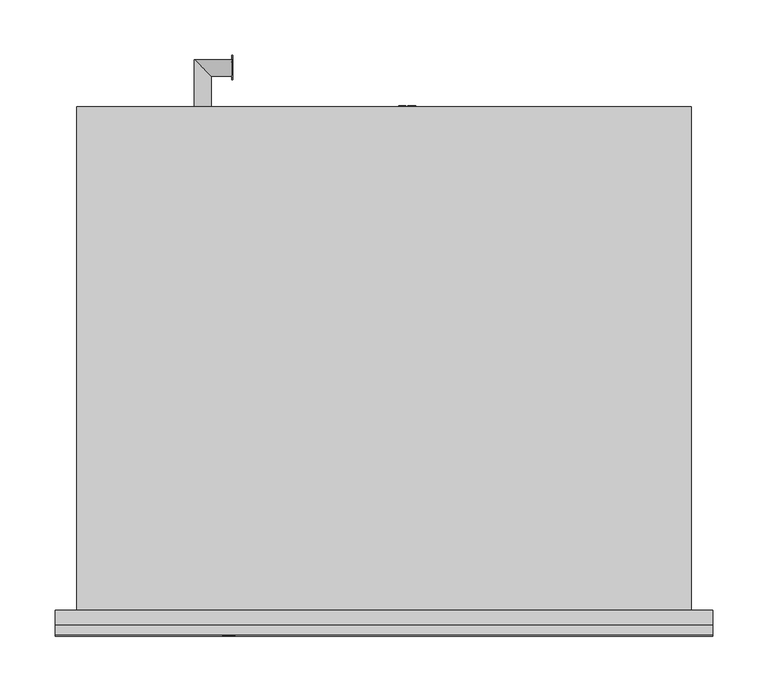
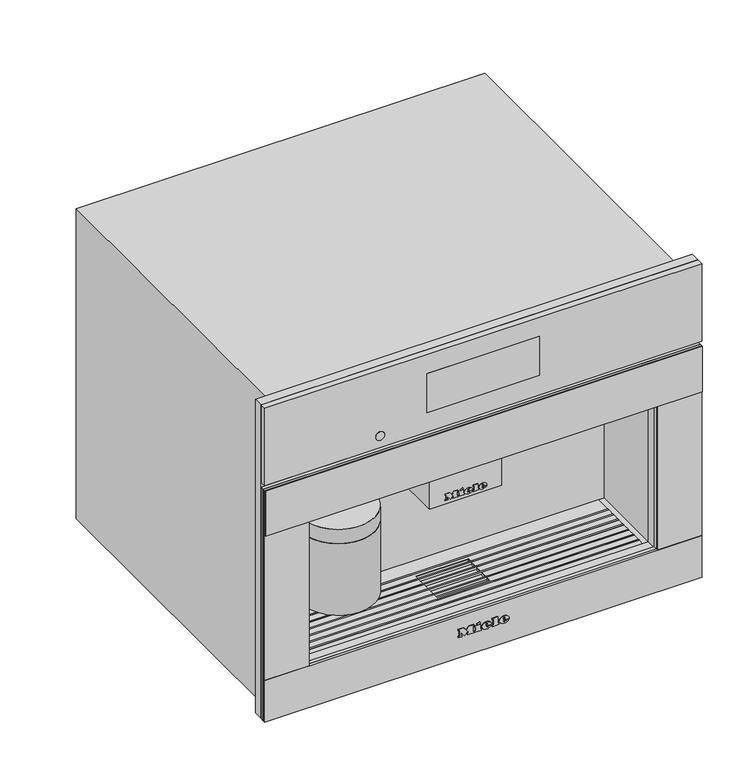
"""IFC4 building model written with IfcOpenShell, lengths in millimetres: proxy geometry, 11754310_MEX_CVA7845_EDST-CLST : 29784540_MEX_11754310_CVA7845_EDST-CLST."""

from ifc_helpers import new_model, si_unit, point, frame, frame_2d, origin, place, context, project, spatial, polyline, circle_curve, ellipse_curve, trimmed, segment, composite_curve, outline, extrude, faceted_brep, source, transform, mapped, element, save
from ifc_brep_helpers import plane_surface, cylinder_surface, revolved_surface, extruded_surface, advanced_brep


def specialty_equipment_d282b1ad(model_context):
    return source(origin(), model_context, "Body", "SolidModel", [
        extrude(outline(composite_curve([segment(trimmed(circle_curve(frame_2d((-14.0, 36.5)), 5.0), [point((-9.0, 36.5))], [point((-19.0, 36.5))], False, "CARTESIAN"), True, "CONTINUOUS"), segment(trimmed(circle_curve(frame_2d((-14.0, 36.5)), 5.0), [point((-19.0, 36.5))], [point((-9.0, 36.5))], False, "CARTESIAN"), True, "CONTINUOUS")], self_intersect=False)), frame((0.0, 0.0, 193.0), z_axis=(0.0, 0.0, 1.0), x_axis=(1.0, 0.0, 0.0)), (0.0, 0.0, 1.0), 5.0),
        extrude(outline(composite_curve([segment(trimmed(circle_curve(frame_2d((14.0, 36.5)), 5.0), [point((19.0, 36.5))], [point((9.0, 36.5))], False, "CARTESIAN"), True, "CONTINUOUS"), segment(trimmed(circle_curve(frame_2d((14.0, 36.5)), 5.0), [point((9.0, 36.5))], [point((19.0, 36.5))], False, "CARTESIAN"), True, "CONTINUOUS")], self_intersect=False)), frame((0.0, 0.0, 193.0), z_axis=(0.0, 0.0, 1.0), x_axis=(1.0, 0.0, 0.0)), (0.0, 0.0, 1.0), 5.0),
        extrude(outline(composite_curve([segment(trimmed(circle_curve(frame_2d((-156.5, 49.5)), 50.0), [point((-106.5, 49.5))], [point((-206.5, 49.5))], False, "CARTESIAN"), True, "CONTINUOUS"), segment(trimmed(circle_curve(frame_2d((-156.5, 49.5)), 50.0), [point((-206.5, 49.5))], [point((-106.5, 49.5))], False, "CARTESIAN"), True, "CONTINUOUS")], self_intersect=False)), frame((0.0, 0.0, 100.0), z_axis=(0.0, 0.0, 1.0), x_axis=(1.0, 0.0, 0.0)), (0.0, 0.0, 1.0), 103.0),
        extrude(outline(polyline([(-49.0, 95.0), (49.0, 95.0), (49.0, 20.0), (-49.0, 20.0), (-49.0, 95.0)])), frame((0.0, 0.0, 198.0), z_axis=(0.0, 0.0, 1.0), x_axis=(1.0, 0.0, 0.0)), (0.0, 0.0, 1.0), 75.0),
        extrude(outline(polyline([(455.5, 297.5), (455.5, -297.5), (4.0, -297.5), (4.0, 297.5), (455.5, 297.5)]), holes=[polyline([(273.0, 237.5), (63.0, 237.5), (63.0, -237.5), (273.0, -237.5), (273.0, 237.5)])]), frame((0.0, -13.0, 0.0), z_axis=(0.0, 1.0, 0.0), x_axis=(0.0, 0.0, 1.0)), (0.0, 0.0, 1.0), 13.0),
        extrude(outline(polyline([(480.48348, 22.0), (480.48348, 32.045631), (481.7391839, 32.045631), (481.7391839, 27.128275), (486.8895318, 32.045631), (488.6455552, 32.045631), (484.3217155, 27.9155425), (488.8025182, 22.0), (487.267224, 22.0), (483.4314411, 27.0669613), (481.7391839, 25.4531857), (481.7391839, 22.0), (480.48348, 22.0)])), frame((-138.0, 0.0, 0.0), z_axis=(1.0, 0.0, 0.0), x_axis=(0.0, 1.0, 0.0)), (0.0, 0.0, 1.0), 1.0),
        extrude(outline(polyline([(491.5420128, 22.0), (488.8025182, 32.045631), (490.0974628, 32.045631), (491.6867131, 25.4433755), (492.1772224, 23.4053092), (492.7020674, 25.207931), (494.6935352, 32.045631), (496.5599232, 32.045631), (498.0069257, 27.0890343), (499.0835937, 23.4053092), (499.5593878, 25.3845144), (501.1633533, 32.045631), (502.4582979, 32.045631), (499.7163507, 22.0), (498.3748077, 22.0), (495.9664069, 29.7500474), (495.630408, 30.8316204), (495.2527159, 29.5293182), (493.0576866, 22.0), (491.5420128, 22.0)])), frame((-138.0, 0.0, 0.0), z_axis=(1.0, 0.0, 0.0), x_axis=(0.0, 1.0, 0.0)), (0.0, 0.0, 1.0), 1.0),
        advanced_brep(
        [(-156.5, 456.0, 27.0), (-171.5, 456.0, 27.0), (-156.5, 483.5, 27.0), (-171.5, 498.5, 27.0), (-138.0, 483.5, 27.0), (-138.0, 498.5, 27.0)],
        [
            (0, 1, circle_curve(frame((-164.0, 456.0, 27.0), z_axis=(0.0, -1.0, 0.0), x_axis=(-1.0, 0.0, 0.0)), 7.5)),
            (1, 0, circle_curve(frame((-164.0, 456.0, 27.0), z_axis=(0.0, -1.0, 0.0), x_axis=(-1.0, 0.0, 0.0)), 7.5)),
            (0, 2),
            (2, 3, ellipse_curve(frame((-164.0, 491.0, 27.0), z_axis=(-0.707106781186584, -0.7071067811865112, 0.0), x_axis=(0.7071067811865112, -0.7071067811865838, 0.0)), 10.6066017, 7.5)),
            (3, 1),
            (3, 2, ellipse_curve(frame((-164.0, 491.0, 27.0), z_axis=(-0.707106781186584, -0.7071067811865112, 0.0), x_axis=(0.7071067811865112, -0.7071067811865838, 0.0)), 10.6066017, 7.5)),
            (4, 5, circle_curve(frame((-138.0, 491.0, 27.0), z_axis=(1.0, 0.0, 0.0), x_axis=(0.0, 1.0, 0.0)), 7.5)),
            (5, 4, circle_curve(frame((-138.0, 491.0, 27.0), z_axis=(1.0, 0.0, 0.0), x_axis=(0.0, 1.0, 0.0)), 7.5)),
            (2, 4),
            (5, 3),
        ],
        [
            plane_surface(frame((-164.0, 456.0, 27.0), z_axis=(0.0, -1.0, 0.0), x_axis=(0.0, 0.0, 1.0))),
            cylinder_surface(frame((-164.0, 456.0, 27.0), z_axis=(0.0, -1.0, 0.0), x_axis=(-1.0, 0.0, 0.0)), 7.5),
            plane_surface(frame((-138.0, 491.0, 27.0), z_axis=(1.0, 0.0, 0.0), x_axis=(0.0, 0.0, 1.0))),
            cylinder_surface(frame((-164.0, 491.0, 27.0), z_axis=(-1.0, 0.0, 0.0), x_axis=(0.0, 1.0, 0.0)), 7.5),
        ],
        [
            (0, [[1, 2]]),
            (1, [[-1, 3, 4, 5]]),
            (1, [[-2, -5, 6, -3]]),
            (2, [[7, 8]]),
            (3, [[-4, 9, -8, 10]]),
            (3, [[-6, -10, -7, -9]]),
        ],
    ),
        extrude(outline(polyline([(97.0, 28.8772152), (107.045631, 28.8772152), (107.045631, 21.6569179), (105.7899271, 21.6569179), (105.7899271, 27.6215114), (102.8076304, 27.6215114), (102.8076304, 21.9708439), (101.5519266, 21.9708439), (101.5519266, 27.6215114), (98.2557039, 27.6215114), (98.2557039, 21.499955), (97.0, 21.499955), (97.0, 28.8772152)])), frame((0.0, 456.0, 0.0), z_axis=(0.0, 1.0, 0.0), x_axis=(0.0, 0.0, 1.0)), (0.0, 0.0, 1.0), 1.0),
        extrude(outline(polyline([(97.0, 19.6163991), (107.045631, 19.6163991), (107.045631, 18.3606953), (98.2557039, 18.3606953), (98.2557039, 13.3378798), (97.0, 13.3378798), (97.0, 19.6163991)])), frame((0.0, 456.0, 0.0), z_axis=(0.0, 1.0, 0.0), x_axis=(0.0, 0.0, 1.0)), (0.0, 0.0, 1.0), 1.0),
        advanced_brep(
        [(55.0, 425.5, 102.0), (55.0, 410.5, 102.0), (28.5, 425.5, 102.0), (13.5, 410.5, 102.0), (28.5, 456.0, 102.0), (13.5, 456.0, 102.0)],
        [
            (0, 1, circle_curve(frame((55.0, 418.0, 102.0), z_axis=(1.0, 0.0, 0.0), x_axis=(0.0, -1.0, 0.0)), 7.5)),
            (1, 0, circle_curve(frame((55.0, 418.0, 102.0), z_axis=(1.0, 0.0, 0.0), x_axis=(0.0, -1.0, 0.0)), 7.5)),
            (0, 2),
            (2, 3, ellipse_curve(frame((21.0, 418.0, 102.0), z_axis=(0.7071067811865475, -0.7071067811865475, 0.0), x_axis=(0.7071067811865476, 0.7071067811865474, 0.0)), 10.6066017, 7.5)),
            (3, 1),
            (3, 2, ellipse_curve(frame((21.0, 418.0, 102.0), z_axis=(0.7071067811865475, -0.7071067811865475, 0.0), x_axis=(0.7071067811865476, 0.7071067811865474, 0.0)), 10.6066017, 7.5)),
            (4, 5, circle_curve(frame((21.0, 456.0, 102.0), z_axis=(0.0, 1.0, 0.0), x_axis=(-1.0, 0.0, 0.0)), 7.5)),
            (5, 4, circle_curve(frame((21.0, 456.0, 102.0), z_axis=(0.0, 1.0, 0.0), x_axis=(-1.0, 0.0, 0.0)), 7.5)),
            (2, 4),
            (5, 3),
        ],
        [
            plane_surface(frame((55.0, 418.0, 102.0), z_axis=(1.0, 0.0, 0.0), x_axis=(0.0, 0.0, 1.0))),
            cylinder_surface(frame((55.0, 418.0, 102.0), z_axis=(1.0, 0.0, 0.0), x_axis=(0.0, -1.0, 0.0)), 7.5),
            plane_surface(frame((21.0, 456.0, 102.0), z_axis=(0.0, 1.0, 0.0), x_axis=(0.0, 0.0, 1.0))),
            cylinder_surface(frame((21.0, 418.0, 102.0), z_axis=(0.0, -1.0, 0.0), x_axis=(-1.0, 0.0, 0.0)), 7.5),
        ],
        [
            (0, [[1, 2]]),
            (1, [[-1, 3, 4, 5]]),
            (1, [[-2, -5, 6, -3]]),
            (2, [[7, 8]]),
            (3, [[-4, 9, -8, 10]]),
            (3, [[-6, -10, -7, -9]]),
        ],
    ),
        advanced_brep(
        [(-110.0, 49.5, 252.0), (-203.0, 49.5, 252.0), (-206.5, 49.5, 223.5), (-106.5, 49.5, 223.5), (-110.0, 49.5, 273.0), (-203.0, 49.5, 273.0), (-156.5, 49.5, 273.0), (-106.5, 49.5, 203.0), (-206.5, 49.5, 203.0), (-156.5, 49.5, 203.0)],
        [
            (0, 1, circle_curve(frame((-156.5, 49.5, 252.0), z_axis=(0.0, 0.0, -1.0), x_axis=(-1.0, 0.0, 0.0)), 46.5)),
            (1, 2, circle_curve(frame((-206.7961166, 49.5, 238.0012775), z_axis=(0.0, 1.0, 0.0), x_axis=(-1.0, 0.0, 0.0)), 14.5043005)),
            (2, 3, circle_curve(frame((-156.5, 49.5, 223.5), z_axis=(0.0, 0.0, 1.0), x_axis=(-1.0, 0.0, 0.0)), 50.0)),
            (3, 0, circle_curve(frame((-106.2038834, 49.5, 238.0012775), z_axis=(0.0, 1.0, 0.0), x_axis=(1.0, 0.0, 0.0)), 14.5043005)),
            (4, 5, circle_curve(frame((-156.5, 49.5, 273.0), z_axis=(0.0, 0.0, -1.0), x_axis=(-1.0, 0.0, 0.0)), 46.5)),
            (5, 1),
            (0, 4),
            (6, 4),
            (4, 5, circle_curve(frame((-156.5, 49.5, 273.0), z_axis=(0.0, 0.0, 1.0), x_axis=(-1.0, 0.0, 0.0)), 46.5)),
            (5, 6),
            (7, 8, circle_curve(frame((-156.5, 49.5, 203.0), z_axis=(0.0, 0.0, -1.0), x_axis=(-1.0, 0.0, 0.0)), 50.0)),
            (8, 9),
            (9, 7),
            (8, 7, circle_curve(frame((-156.5, 49.5, 203.0), z_axis=(0.0, 0.0, -1.0), x_axis=(-1.0, 0.0, 0.0)), 50.0)),
            (2, 8),
            (7, 3),
            (2, 3, circle_curve(frame((-156.5, 49.5, 223.5), z_axis=(0.0, 0.0, -1.0), x_axis=(-1.0, 0.0, 0.0)), 50.0)),
            (1, 0, circle_curve(frame((-156.5, 49.5, 252.0), z_axis=(0.0, 0.0, -1.0), x_axis=(-1.0, 0.0, 0.0)), 46.5)),
        ],
        [
            revolved_surface(trimmed(ellipse_curve(frame((-206.7961166, 49.5, 238.0012775), z_axis=(0.0, -1.0, 0.0), x_axis=(-1.0, 0.0, 0.0)), 14.5043005, 14.5043005), [point((-206.5, 49.5, 223.5))], [point((-203.0, 49.5, 252.0))], True, "CARTESIAN"), (-156.5, 49.5, 388.7361736), (0.0, 0.0, 1.0)),
            cylinder_surface(frame((-156.5, 49.5, 388.7361736), z_axis=(0.0, 0.0, 1.0), x_axis=(-1.0, 0.0, 0.0)), 46.5),
            plane_surface(frame((-156.5, 49.5, 273.0), z_axis=(0.0, 0.0, 1.0), x_axis=(-1.0, 0.0, 0.0))),
            plane_surface(frame((-156.5, 49.5, 203.0), z_axis=(0.0, 0.0, -1.0), x_axis=(-1.0, 0.0, 0.0))),
            cylinder_surface(frame((-156.5, 49.5, 388.7361736), z_axis=(0.0, 0.0, 1.0), x_axis=(-1.0, 0.0, 0.0)), 50.0),
        ],
        [
            (0, [[1, 2, 3, 4]]),
            (1, [[5, 6, -1, 7]]),
            (2, [[8, 9, 10]]),
            (3, [[11, 12, 13]]),
            (3, [[14, -13, -12]]),
            (4, [[-3, 15, -11, 16]]),
            (4, [[17, -16, -14, -15]]),
            (0, [[18, -4, -17, -2]]),
            (1, [[-9, -7, -18, -6]]),
            (2, [[-10, -5, -8]]),
        ],
    ),
        faceted_brep([(229.5, 82.0925571, 60.0), (229.5, 80.0925571, 60.0), (-229.5, 80.0925571, 60.0), (-229.5, 82.0925571, 60.0), (229.5, 70.0550731, 60.0), (229.5, 68.0550731, 60.0), (-229.5, 68.0550731, 60.0), (-229.5, 70.0550731, 60.0), (229.5, 58.0175891, 60.0), (229.5, 56.0175891, 60.0), (-229.5, 56.0175891, 60.0), (-229.5, 58.0175891, 60.0), (229.5, 45.9801052, 60.0), (229.5, 43.9801052, 60.0), (-229.5, 43.9801052, 60.0), (-229.5, 45.9801052, 60.0), (229.5, 33.9426212, 60.0), (229.5, 31.9426212, 60.0), (-229.5, 31.9426212, 60.0), (-229.5, 33.9426212, 60.0), (229.5, 21.9776522, 60.0), (229.5, 19.9776522, 60.0), (-229.5, 19.9776522, 60.0), (-229.5, 21.9776522, 60.0), (229.5, 10.0, 60.0), (229.5, 8.0, 60.0), (-229.5, 8.0, 60.0), (-229.5, 10.0, 60.0), (-229.5, 45.9801052, 62.0), (-36.0, 45.9801052, 62.0), (-36.0, 45.9801052, 63.0), (-229.5, 45.9801052, 63.0), (-229.5, 45.9801052, 63.5), (229.5, 45.9801052, 63.5), (229.5, 45.9801052, 63.0), (36.0, 45.9801052, 63.0), (36.0, 45.9801052, 62.0), (229.5, 45.9801052, 62.0), (229.5, 19.9776522, 62.0), (229.5, 10.0, 62.0), (-229.5, 10.0, 62.0), (-229.5, 19.9776522, 62.0), (229.5, 43.9801052, 62.0), (229.5, 33.9426212, 62.0), (36.0, 33.9426212, 62.0), (36.0, 43.9801052, 62.0), (229.5, 56.0175891, 62.0), (36.0, 56.0175891, 62.0), (229.5, 68.0550731, 62.0), (229.5, 58.0175891, 62.0), (36.0, 58.0175891, 62.0), (36.0, 68.0550731, 62.0), (-229.5, 33.9426212, 62.0), (-229.5, 43.9801052, 62.0), (-36.0, 43.9801052, 62.0), (-36.0, 33.9426212, 62.0), (-229.5, 56.0175891, 62.0), (-36.0, 56.0175891, 62.0), (-229.5, 58.0175891, 62.0), (-229.5, 68.0550731, 62.0), (-36.0, 68.0550731, 62.0), (-36.0, 58.0175891, 62.0), (-229.5, 104.5, 62.0), (229.5, 104.5, 62.0), (229.5, 82.0925571, 62.0), (-229.5, 82.0925571, 62.0), (36.0, 76.0, 62.0), (-36.0, 76.0, 62.0), (-36.0, 70.0550731, 62.0), (-229.5, 70.0550731, 62.0), (-229.5, 80.0925571, 62.0), (229.5, 80.0925571, 62.0), (229.5, 70.0550731, 62.0), (36.0, 70.0550731, 62.0), (229.5, 0.0, 62.0), (-229.5, 0.0, 62.0), (-229.5, 8.0, 62.0), (229.5, 8.0, 62.0), (-36.0, 25.0, 62.0), (36.0, 25.0, 62.0), (36.0, 31.9426212, 62.0), (229.5, 31.9426212, 62.0), (229.5, 21.9776522, 62.0), (-229.5, 21.9776522, 62.0), (-229.5, 31.9426212, 62.0), (-36.0, 31.9426212, 62.0), (229.5, 104.5, 63.0), (-229.5, 104.5, 63.0), (-229.5, 82.0925571, 63.0), (229.5, 82.0925571, 63.0), (-229.5, 0.0, 63.0), (229.5, 0.0, 63.0), (229.5, 8.0, 63.0), (-229.5, 8.0, 63.0), (-36.0, 76.0, 63.0), (36.0, 76.0, 63.0), (36.0, 70.0550731, 63.0), (229.5, 70.0550731, 63.0), (229.5, 80.0925571, 63.0), (-229.5, 80.0925571, 63.0), (-229.5, 70.0550731, 63.0), (-36.0, 70.0550731, 63.0), (36.0, 25.0, 63.0), (-36.0, 25.0, 63.0), (-36.0, 31.9426212, 63.0), (-229.5, 31.9426212, 63.0), (-229.5, 21.9776522, 63.0), (229.5, 21.9776522, 63.0), (229.5, 31.9426212, 63.0), (36.0, 31.9426212, 63.0), (-229.5, 19.9776522, 63.0), (-229.5, 10.0, 63.0), (229.5, 10.0, 63.0), (229.5, 19.9776522, 63.0), (-229.5, 43.9801052, 63.0), (-229.5, 33.9426212, 63.0), (-36.0, 33.9426212, 63.0), (-36.0, 43.9801052, 63.0), (-229.5, 56.0175891, 63.0), (-36.0, 56.0175891, 63.0), (-229.5, 68.0550731, 63.0), (-229.5, 58.0175891, 63.0), (-36.0, 58.0175891, 63.0), (-36.0, 68.0550731, 63.0), (229.5, 33.9426212, 63.0), (229.5, 43.9801052, 63.0), (36.0, 43.9801052, 63.0), (36.0, 33.9426212, 63.0), (229.5, 56.0175891, 63.0), (36.0, 56.0175891, 63.0), (229.5, 58.0175891, 63.0), (229.5, 68.0550731, 63.0), (36.0, 68.0550731, 63.0), (36.0, 58.0175891, 63.0), (-229.5, 8.0, 63.5), (-229.5, 10.0, 63.5), (-229.5, 19.9776522, 63.5), (-229.5, 21.9776522, 63.5), (-229.5, 31.9426212, 63.5), (-229.5, 33.9426212, 63.5), (-229.5, 43.9801052, 63.5), (-229.5, 56.0175891, 63.5), (-229.5, 58.0175891, 63.5), (-229.5, 68.0550731, 63.5), (-229.5, 70.0550731, 63.5), (-229.5, 80.0925571, 63.5), (-229.5, 82.0925571, 63.5), (229.5, 82.0925571, 63.5), (229.5, 80.0925571, 63.5), (229.5, 70.0550731, 63.5), (229.5, 68.0550731, 63.5), (229.5, 58.0175891, 63.5), (229.5, 56.0175891, 63.5), (229.5, 43.9801052, 63.5), (229.5, 33.9426212, 63.5), (229.5, 31.9426212, 63.5), (229.5, 21.9776522, 63.5), (229.5, 19.9776522, 63.5), (229.5, 10.0, 63.5), (229.5, 8.0, 63.5)], [[[0, 1, 2, 3]], [[4, 5, 6, 7]], [[8, 9, 10, 11]], [[12, 13, 14, 15]], [[16, 17, 18, 19]], [[20, 21, 22, 23]], [[24, 25, 26, 27]], [[12, 15, 28, 29, 30, 31, 32, 33, 34, 35, 36, 37]], [[38, 39, 40, 41]], [[42, 43, 44, 45]], [[46, 37, 36, 47]], [[48, 49, 50, 51]], [[52, 53, 54, 55]], [[28, 56, 57, 29]], [[58, 59, 60, 61]], [[62, 63, 64, 65]], [[66, 67, 68, 69, 70, 71, 72, 73]], [[74, 75, 76, 77]], [[78, 79, 80, 81, 82, 83, 84, 85]], [[86, 87, 88, 89]], [[90, 91, 92, 93]], [[94, 95, 96, 97, 98, 99, 100, 101]], [[102, 103, 104, 105, 106, 107, 108, 109]], [[110, 111, 112, 113]], [[114, 115, 116, 117]], [[118, 31, 30, 119]], [[120, 121, 122, 123]], [[124, 125, 126, 127]], [[34, 128, 129, 35]], [[130, 131, 132, 133]], [[63, 62, 87, 86]], [[87, 62, 65, 3, 2, 70, 69, 7, 6, 59, 58, 11, 10, 56, 28, 15, 14, 53, 52, 19, 18, 84, 83, 23, 22, 41, 40, 27, 26, 76, 75, 90, 93, 134, 135, 111, 110, 136, 137, 106, 105, 138, 139, 115, 114, 140, 32, 31, 118, 141, 142, 121, 120, 143, 144, 100, 99, 145, 146, 88]], [[75, 74, 91, 90]], [[63, 86, 89, 147, 148, 98, 97, 149, 150, 131, 130, 151, 152, 128, 34, 33, 153, 125, 124, 154, 155, 108, 107, 156, 157, 113, 112, 158, 159, 92, 91, 74, 77, 25, 24, 39, 38, 21, 20, 82, 81, 17, 16, 43, 42, 13, 12, 37, 46, 9, 8, 49, 48, 5, 4, 72, 71, 1, 0, 64]], [[66, 95, 94, 67]], [[55, 54, 117, 116]], [[29, 57, 119, 30]], [[61, 60, 123, 122]], [[67, 94, 101, 68]], [[103, 78, 85, 104]], [[78, 103, 102, 79]], [[45, 44, 127, 126]], [[47, 36, 35, 129]], [[51, 50, 133, 132]], [[95, 66, 73, 96]], [[79, 102, 109, 80]], [[158, 135, 134, 159]], [[156, 137, 136, 157]], [[154, 139, 138, 155]], [[33, 32, 140, 153]], [[151, 142, 141, 152]], [[149, 144, 143, 150]], [[147, 146, 145, 148]], [[24, 27, 40, 39]], [[135, 158, 112, 111]], [[26, 25, 77, 76]], [[159, 134, 93, 92]], [[20, 23, 83, 82]], [[137, 156, 107, 106]], [[22, 21, 38, 41]], [[157, 136, 110, 113]], [[16, 19, 52, 55, 116, 115, 139, 154, 124, 127, 44, 43]], [[18, 17, 81, 80, 109, 108, 155, 138, 105, 104, 85, 84]], [[14, 13, 42, 45, 126, 125, 153, 140, 114, 117, 54, 53]], [[8, 11, 58, 61, 122, 121, 142, 151, 130, 133, 50, 49]], [[10, 9, 46, 47, 129, 128, 152, 141, 118, 119, 57, 56]], [[4, 7, 69, 68, 101, 100, 144, 149, 97, 96, 73, 72]], [[6, 5, 48, 51, 132, 131, 150, 143, 120, 123, 60, 59]], [[0, 3, 65, 64]], [[146, 147, 89, 88]], [[2, 1, 71, 70]], [[148, 145, 99, 98]]]),
        faceted_brep([(-278.0, 456.0, 0.0), (-278.0, 0.0, 0.0), (-278.0, 0.0, 446.0), (-278.0, 456.0, 446.0), (278.0, 456.0, 0.0), (278.0, 456.0, 446.0), (278.0, 0.0, 446.0), (278.0, 0.0, 0.0), (55.0, 456.0, 133.0), (-22.0, 456.0, 133.0), (-22.0, 456.0, 89.0), (35.0, 456.0, 66.0), (55.0, 456.0, 66.0), (-36.0, 76.0, 58.0), (36.0, 76.0, 58.0), (36.0, 76.0, 62.0), (-36.0, 76.0, 62.0), (36.0, 25.0, 58.0), (-36.0, 25.0, 58.0), (-36.0, 25.0, 62.0), (36.0, 25.0, 62.0), (237.5, 0.0, 273.0), (237.5, 0.0, 63.0), (229.5, 0.0, 63.0), (229.5, 0.0, 62.0), (-229.5, 0.0, 62.0), (-229.5, 0.0, 63.0), (-237.5, 0.0, 63.0), (-237.5, 0.0, 273.0), (237.5, 104.5, 273.0), (-237.5, 104.5, 273.0), (-237.5, 104.5, 63.0), (-229.5, 104.5, 63.0), (-229.5, 104.5, 62.0), (229.5, 104.5, 62.0), (229.5, 104.5, 63.0), (237.5, 104.5, 63.0), (-22.0, 400.0, 133.0), (55.0, 400.0, 133.0), (55.0, 400.0, 66.0), (35.0, 400.0, 66.0), (-22.0, 400.0, 89.0)], [[[0, 1, 2, 3]], [[4, 5, 6, 7]], [[0, 3, 5, 4], [8, 9, 10, 11, 12]], [[13, 14, 15, 16]], [[17, 18, 19, 20]], [[3, 2, 6, 5]], [[2, 1, 7, 6], [21, 22, 23, 24, 25, 26, 27, 28]], [[1, 0, 4, 7]], [[29, 30, 31, 32, 33, 34, 35, 36]], [[29, 36, 22, 21]], [[22, 36, 35, 23]], [[31, 27, 26, 32]], [[31, 30, 28, 27]], [[30, 29, 21, 28]], [[34, 33, 25, 24], [16, 15, 20, 19]], [[25, 33, 32, 26]], [[34, 24, 23, 35]], [[14, 13, 18, 17]], [[18, 13, 16, 19]], [[14, 17, 20, 15]], [[37, 38, 39, 40, 41]], [[38, 37, 9, 8]], [[39, 38, 8, 12]], [[40, 39, 12, 11]], [[41, 40, 11, 10]], [[37, 41, 10, 9]]]),
        advanced_brep(
        [(27.088, -23.0, 36.7018), (27.088, -23.0, 37.8532), (34.7146, -23.0, 37.8532), (21.445, -23.0, 37.8532), (24.58, -23.0, 34.0), (34.5208, -23.0, 36.7018), (31.078, -23.0, 36.7018), (28.3648, -23.0, 35.425), (27.088, -23.0, 39.3124), (27.088, -23.0, 40.555), (29.0374, -23.0, 40.555), (29.0374, -23.0, 39.3124), (27.088, -22.0, 36.7018), (28.3648, -22.0, 35.425), (31.078, -22.0, 36.7018), (34.5208, -22.0, 36.7018), (24.58, -22.0, 34.0), (21.445, -22.0, 37.8532), (34.7146, -22.0, 37.8532), (27.088, -22.0, 37.8532), (27.088, -22.0, 39.3124), (29.0374, -22.0, 39.3124), (29.0374, -22.0, 40.555), (27.088, -22.0, 40.555)],
        [
            (0, 1),
            (1, 2),
            (2, 3, ellipse_curve(frame((28.0798, -23.0, 37.8532), z_axis=(0.0, -1.0, 0.0), x_axis=(-1.0, 0.0, 0.0)), 6.6348, 5.4834)),
            (3, 4, circle_curve(frame((25.8568622, -23.0, 38.2408), z_axis=(0.0, -1.0, 0.0), x_axis=(0.0, 0.0, -1.0)), 4.4288556)),
            (4, 5, circle_curve(frame((27.9469808, -23.0, 41.2504), z_axis=(0.0, -1.0, 0.0), x_axis=(0.0, 0.0, -1.0)), 7.9940516)),
            (5, 6),
            (6, 7, circle_curve(frame((28.9220588, -23.0, 37.762), z_axis=(0.0, 1.0, 0.0), x_axis=(0.0, 0.0, -1.0)), 2.4025208)),
            (7, 0, circle_curve(frame((28.3648, -23.0, 36.7018), z_axis=(0.0, 1.0, 0.0), x_axis=(0.0, 0.0, -1.0)), 1.2768)),
            (8, 9),
            (9, 10, circle_curve(frame((28.0627, -23.0, 40.555), z_axis=(0.0, 1.0, 0.0), x_axis=(0.0, 0.0, -1.0)), 0.9747)),
            (10, 11),
            (11, 8),
            (12, 13, circle_curve(frame((28.3648, -22.0, 36.7018), z_axis=(0.0, -1.0, 0.0), x_axis=(0.0, 0.0, -1.0)), 1.2768)),
            (13, 14, circle_curve(frame((28.9220588, -22.0, 37.762), z_axis=(0.0, -1.0, 0.0), x_axis=(0.0, 0.0, -1.0)), 2.4025208)),
            (14, 15),
            (15, 16, circle_curve(frame((27.9469808, -22.0, 41.2504), z_axis=(0.0, 1.0, 0.0), x_axis=(0.0, 0.0, -1.0)), 7.9940516)),
            (16, 17, circle_curve(frame((25.8568622, -22.0, 38.2408), z_axis=(0.0, 1.0, 0.0), x_axis=(0.0, 0.0, -1.0)), 4.4288556)),
            (17, 18, ellipse_curve(frame((28.0798, -22.0, 37.8532), z_axis=(0.0, 1.0, 0.0), x_axis=(-1.0, 0.0, 0.0)), 6.6348, 5.4834)),
            (18, 19),
            (19, 12),
            (20, 21),
            (21, 22),
            (22, 23, circle_curve(frame((28.0627, -22.0, 40.555), z_axis=(0.0, -1.0, 0.0), x_axis=(0.0, 0.0, -1.0)), 0.9747)),
            (23, 20),
            (0, 12),
            (19, 1),
            (18, 2),
            (5, 15),
            (14, 6),
            (17, 3),
            (13, 7),
            (16, 4),
            (8, 20),
            (23, 9),
            (22, 10),
            (21, 11),
        ],
        [
            plane_surface(frame((27.088, -23.0, 37.8532), z_axis=(0.0, -1.0, 0.0), x_axis=(0.0, 0.0, 1.0))),
            plane_surface(frame((27.088, -22.0, 37.8532), z_axis=(0.0, 1.0, 0.0), x_axis=(0.0, 0.0, -1.0))),
            plane_surface(frame((27.088, -23.0, 36.7018), z_axis=(1.0, 0.0, 0.0), x_axis=(0.0, 1.0, 0.0))),
            plane_surface(frame((27.088, -23.0, 37.8532), z_axis=(0.0, 0.0, -1.0), x_axis=(0.0, 1.0, 0.0))),
            plane_surface(frame((34.5208, -23.0, 36.7018), z_axis=(0.0, 0.0, 1.0), x_axis=(0.0, 1.0, 0.0))),
            extruded_surface(trimmed(ellipse_curve(frame((28.0798, -21.0, 37.8532), z_axis=(0.0, -1.0, 0.0), x_axis=(-1.0, 0.0, 0.0)), 6.6348, 5.4834), [point((34.7146, -21.0, 37.8532))], [point((21.445, -21.0, 37.8532))], True, "CARTESIAN"), (0.0, -1.0, 0.0), 1.0),
            revolved_surface(polyline([(28.9220588, -22.0, 35.3594792), (28.9220588, -23.0, 35.3594792)]), (28.9220588, -22.0, 37.762), (0.0, 1.0, 0.0)),
            revolved_surface(polyline([(28.3648, -22.0, 35.425), (28.3648, -23.0, 35.425)]), (28.3648, -22.0, 36.7018), (0.0, 1.0, 0.0)),
            cylinder_surface(frame((25.8568622, -22.0, 38.2408), z_axis=(0.0, -1.0, 0.0), x_axis=(0.0, 0.0, -1.0)), 4.4288556),
            cylinder_surface(frame((27.9469808, -22.0, 41.2504), z_axis=(0.0, -1.0, 0.0), x_axis=(0.0, 0.0, -1.0)), 7.9940516),
            plane_surface(frame((27.088, -23.0, 39.3124), z_axis=(1.0, 0.0, 0.0), x_axis=(0.0, 1.0, 0.0))),
            revolved_surface(polyline([(28.0627, -22.0, 39.5803), (28.0627, -23.0, 39.5803)]), (28.0627, -22.0, 40.555), (0.0, 1.0, 0.0)),
            plane_surface(frame((29.0374, -23.0, 40.555), z_axis=(-1.0, 0.0, 0.0), x_axis=(0.0, 1.0, 0.0))),
            plane_surface(frame((29.0374, -23.0, 39.3124), z_axis=(0.0, 0.0, 1.0), x_axis=(0.0, 1.0, 0.0))),
        ],
        [
            (0, [[1, 2, 3, 4, 5, 6, 7, 8], [9, 10, 11, 12]]),
            (1, [[13, 14, 15, 16, 17, 18, 19, 20], [21, 22, 23, 24]]),
            (2, [[-1, 25, -20, 26]]),
            (3, [[-2, -26, -19, 27]]),
            (4, [[-6, 28, -15, 29]]),
            (5, [[-3, -27, -18, 30]]),
            (6, [[-7, -29, -14, 31]]),
            (7, [[-8, -31, -13, -25]]),
            (8, [[-4, -30, -17, 32]]),
            (9, [[-5, -32, -16, -28]]),
            (10, [[-9, 33, -24, 34]]),
            (11, [[-10, -34, -23, 35]]),
            (12, [[-11, -35, -22, 36]]),
            (13, [[-12, -36, -21, -33]]),
        ],
    ),
        advanced_brep(
        [(3.2962, -23.0, 36.7018), (3.2962, -23.0, 37.8532), (10.9228, -23.0, 37.8532), (-2.3468, -23.0, 37.8532), (0.7882, -23.0, 34.0), (10.729, -23.0, 36.7018), (7.2862, -23.0, 36.7018), (4.573, -23.0, 35.425), (3.2962, -23.0, 39.3124), (3.2962, -23.0, 40.555), (5.2456, -23.0, 40.555), (5.2456, -23.0, 39.3124), (3.2962, -22.0, 36.7018), (4.573, -22.0, 35.425), (7.2862, -22.0, 36.7018), (10.729, -22.0, 36.7018), (0.7882, -22.0, 34.0), (-2.3468, -22.0, 37.8532), (10.9228, -22.0, 37.8532), (3.2962, -22.0, 37.8532), (3.2962, -22.0, 39.3124), (5.2456, -22.0, 39.3124), (5.2456, -22.0, 40.555), (3.2962, -22.0, 40.555)],
        [
            (0, 1),
            (1, 2),
            (2, 3, ellipse_curve(frame((4.288, -23.0, 37.8532), z_axis=(0.0, -1.0, 0.0), x_axis=(-1.0, 0.0, 0.0)), 6.6348, 5.4834)),
            (3, 4, circle_curve(frame((2.0650622, -23.0, 38.2408), z_axis=(0.0, -1.0, 0.0), x_axis=(0.0, 0.0, -1.0)), 4.4288556)),
            (4, 5, circle_curve(frame((4.1551808, -23.0, 41.2504), z_axis=(0.0, -1.0, 0.0), x_axis=(0.0, 0.0, -1.0)), 7.9940516)),
            (5, 6),
            (6, 7, circle_curve(frame((5.1302588, -23.0, 37.762), z_axis=(0.0, 1.0, 0.0), x_axis=(0.0, 0.0, -1.0)), 2.4025208)),
            (7, 0, circle_curve(frame((4.573, -23.0, 36.7018), z_axis=(0.0, 1.0, 0.0), x_axis=(0.0, 0.0, -1.0)), 1.2768)),
            (8, 9),
            (9, 10, circle_curve(frame((4.2709, -23.0, 40.555), z_axis=(0.0, 1.0, 0.0), x_axis=(0.0, 0.0, -1.0)), 0.9747)),
            (10, 11),
            (11, 8),
            (12, 13, circle_curve(frame((4.573, -22.0, 36.7018), z_axis=(0.0, -1.0, 0.0), x_axis=(0.0, 0.0, -1.0)), 1.2768)),
            (13, 14, circle_curve(frame((5.1302588, -22.0, 37.762), z_axis=(0.0, -1.0, 0.0), x_axis=(0.0, 0.0, -1.0)), 2.4025208)),
            (14, 15),
            (15, 16, circle_curve(frame((4.1551808, -22.0, 41.2504), z_axis=(0.0, 1.0, 0.0), x_axis=(0.0, 0.0, -1.0)), 7.9940516)),
            (16, 17, circle_curve(frame((2.0650622, -22.0, 38.2408), z_axis=(0.0, 1.0, 0.0), x_axis=(0.0, 0.0, -1.0)), 4.4288556)),
            (17, 18, ellipse_curve(frame((4.288, -22.0, 37.8532), z_axis=(0.0, 1.0, 0.0), x_axis=(-1.0, 0.0, 0.0)), 6.6348, 5.4834)),
            (18, 19),
            (19, 12),
            (20, 21),
            (21, 22),
            (22, 23, circle_curve(frame((4.2709, -22.0, 40.555), z_axis=(0.0, -1.0, 0.0), x_axis=(0.0, 0.0, -1.0)), 0.9747)),
            (23, 20),
            (0, 12),
            (19, 1),
            (18, 2),
            (5, 15),
            (14, 6),
            (17, 3),
            (13, 7),
            (16, 4),
            (8, 20),
            (23, 9),
            (22, 10),
            (21, 11),
        ],
        [
            plane_surface(frame((3.2962, -23.0, 37.8532), z_axis=(0.0, -1.0, 0.0), x_axis=(0.0, 0.0, 1.0))),
            plane_surface(frame((3.2962, -22.0, 37.8532), z_axis=(0.0, 1.0, 0.0), x_axis=(0.0, 0.0, -1.0))),
            plane_surface(frame((3.2962, -23.0, 36.7018), z_axis=(1.0, 0.0, 0.0), x_axis=(0.0, 1.0, 0.0))),
            plane_surface(frame((3.2962, -23.0, 37.8532), z_axis=(0.0, 0.0, -1.0), x_axis=(0.0, 1.0, 0.0))),
            plane_surface(frame((10.729, -23.0, 36.7018), z_axis=(0.0, 0.0, 1.0), x_axis=(0.0, 1.0, 0.0))),
            extruded_surface(trimmed(ellipse_curve(frame((4.288, -21.0, 37.8532), z_axis=(0.0, -1.0, 0.0), x_axis=(-1.0, 0.0, 0.0)), 6.6348, 5.4834), [point((10.9228, -21.0, 37.8532))], [point((-2.3468, -21.0, 37.8532))], True, "CARTESIAN"), (0.0, -1.0, 0.0), 1.0),
            revolved_surface(polyline([(5.1302588, -22.0, 35.3594792), (5.1302588, -23.0, 35.3594792)]), (5.1302588, -22.0, 37.762), (0.0, 1.0, 0.0)),
            revolved_surface(polyline([(4.573, -22.0, 35.425), (4.573, -23.0, 35.425)]), (4.573, -22.0, 36.7018), (0.0, 1.0, 0.0)),
            cylinder_surface(frame((2.0650622, -22.0, 38.2408), z_axis=(0.0, -1.0, 0.0), x_axis=(0.0, 0.0, -1.0)), 4.4288556),
            cylinder_surface(frame((4.1551808, -22.0, 41.2504), z_axis=(0.0, -1.0, 0.0), x_axis=(0.0, 0.0, -1.0)), 7.9940516),
            plane_surface(frame((3.2962, -23.0, 39.3124), z_axis=(1.0, 0.0, 0.0), x_axis=(0.0, 1.0, 0.0))),
            revolved_surface(polyline([(4.2709, -22.0, 39.5803), (4.2709, -23.0, 39.5803)]), (4.2709, -22.0, 40.555), (0.0, 1.0, 0.0)),
            plane_surface(frame((5.2456, -23.0, 40.555), z_axis=(-1.0, 0.0, 0.0), x_axis=(0.0, 1.0, 0.0))),
            plane_surface(frame((5.2456, -23.0, 39.3124), z_axis=(0.0, 0.0, 1.0), x_axis=(0.0, 1.0, 0.0))),
        ],
        [
            (0, [[1, 2, 3, 4, 5, 6, 7, 8], [9, 10, 11, 12]]),
            (1, [[13, 14, 15, 16, 17, 18, 19, 20], [21, 22, 23, 24]]),
            (2, [[-1, 25, -20, 26]]),
            (3, [[-2, -26, -19, 27]]),
            (4, [[-6, 28, -15, 29]]),
            (5, [[-3, -27, -18, 30]]),
            (6, [[-7, -29, -14, 31]]),
            (7, [[-8, -31, -13, -25]]),
            (8, [[-4, -30, -17, 32]]),
            (9, [[-5, -32, -16, -28]]),
            (10, [[-9, 33, -24, 34]]),
            (11, [[-10, -34, -23, 35]]),
            (12, [[-11, -35, -22, 36]]),
            (13, [[-12, -36, -21, -33]]),
        ],
    ),
        extrude(outline(polyline([(44.7274, -9.164), (42.8806, -8.2976), (44.6818, -4.433), (46.5286, -5.288), (44.7274, -9.164)])), frame((0.0, -23.0, 0.0), z_axis=(0.0, 1.0, 0.0), x_axis=(0.0, 0.0, 1.0)), (0.0, 0.0, 1.0), 1.0),
        extrude(outline(polyline([(42.6298, -11.9798), (40.5892, -11.9798), (40.5892, -10.6232), (35.9152, -10.6232), (35.9152, -11.9798), (34.0, -11.9798), (34.0, -2.9852), (35.9152, -2.9852), (35.9152, -4.3076), (42.6298, -4.3076), (42.6298, -11.9798)])), frame((0.0, -23.0, 0.0), z_axis=(0.0, 1.0, 0.0), x_axis=(0.0, 0.0, 1.0)), (0.0, 0.0, 1.0), 1.0),
        extrude(outline(polyline([(43.5418, 11.5612), (43.5418, 12.9292), (35.9152, 12.9292), (35.9152, 11.5612), (34.0, 11.5612), (34.0, 20.8066), (35.9152, 20.8066), (35.9152, 19.4044), (45.4, 19.4044), (45.4, 11.5612), (43.5418, 11.5612)])), frame((0.0, -23.0, 0.0), z_axis=(0.0, 1.0, 0.0), x_axis=(0.0, 0.0, 1.0)), (0.0, 0.0, 1.0), 1.0),
        extrude(outline(polyline([(43.5418, -34.7), (43.5418, -33.3206), (35.9152, -33.3206), (35.9152, -34.7), (34.0, -34.7), (34.0, -29.684), (35.9152, -29.684), (35.9152, -31.052), (40.7429247, -31.052), (34.0, -25.9562), (40.9402223, -20.8376), (35.9152, -20.8376), (35.9152, -22.2398), (34.0, -22.2398), (34.0, -13.1426), (35.9152, -13.1426), (35.9152, -14.5904), (43.5418, -14.5904), (43.5418, -13.1426), (45.4, -13.1426), (45.4, -20.0852), (41.125, -23.414), (45.4, -26.7542), (45.4, -34.7), (43.5418, -34.7)])), frame((0.0, -23.0, 0.0), z_axis=(0.0, 1.0, 0.0), x_axis=(0.0, 0.0, 1.0)), (0.0, 0.0, 1.0), 1.0),
        advanced_brep(
        [(22.348, 19.0, 205.5278), (22.348, 19.0, 206.4772), (28.6366, 19.0, 206.4772), (17.695, 19.0, 206.4772), (20.28, 19.0, 203.3), (28.4768, 19.0, 205.5278), (25.638, 19.0, 205.5278), (23.4008, 19.0, 204.475), (22.348, 19.0, 207.6804), (22.348, 19.0, 208.705), (23.9554, 19.0, 208.705), (23.9554, 19.0, 207.6804), (22.348, 20.0, 205.5278), (23.4008, 20.0, 204.475), (25.638, 20.0, 205.5278), (28.4768, 20.0, 205.5278), (20.28, 20.0, 203.3), (17.695, 20.0, 206.4772), (28.6366, 20.0, 206.4772), (22.348, 20.0, 206.4772), (22.348, 20.0, 207.6804), (23.9554, 20.0, 207.6804), (23.9554, 20.0, 208.705), (22.348, 20.0, 208.705)],
        [
            (0, 1),
            (1, 2),
            (2, 3, ellipse_curve(frame((23.1658, 19.0, 206.4772), z_axis=(0.0, -1.0, 0.0), x_axis=(-1.0, 0.0, 0.0)), 5.4708, 4.5214)),
            (3, 4, circle_curve(frame((21.3328513, 19.0, 206.7968), z_axis=(0.0, -1.0, 0.0), x_axis=(0.0, 0.0, -1.0)), 3.6518634)),
            (4, 5, circle_curve(frame((23.0562825, 19.0, 209.2784), z_axis=(0.0, -1.0, 0.0), x_axis=(0.0, 0.0, -1.0)), 6.5915864)),
            (5, 6),
            (6, 7, circle_curve(frame((23.8602941, 19.0, 206.402), z_axis=(0.0, 1.0, 0.0), x_axis=(0.0, 0.0, -1.0)), 1.981026)),
            (7, 0, circle_curve(frame((23.4008, 19.0, 205.5278), z_axis=(0.0, 1.0, 0.0), x_axis=(0.0, 0.0, -1.0)), 1.0528)),
            (8, 9),
            (9, 10, circle_curve(frame((23.1517, 19.0, 208.705), z_axis=(0.0, 1.0, 0.0), x_axis=(0.0, 0.0, -1.0)), 0.8037)),
            (10, 11),
            (11, 8),
            (12, 13, circle_curve(frame((23.4008, 20.0, 205.5278), z_axis=(0.0, -1.0, 0.0), x_axis=(0.0, 0.0, -1.0)), 1.0528)),
            (13, 14, circle_curve(frame((23.8602941, 20.0, 206.402), z_axis=(0.0, -1.0, 0.0), x_axis=(0.0, 0.0, -1.0)), 1.981026)),
            (14, 15),
            (15, 16, circle_curve(frame((23.0562825, 20.0, 209.2784), z_axis=(0.0, 1.0, 0.0), x_axis=(0.0, 0.0, -1.0)), 6.5915864)),
            (16, 17, circle_curve(frame((21.3328513, 20.0, 206.7968), z_axis=(0.0, 1.0, 0.0), x_axis=(0.0, 0.0, -1.0)), 3.6518634)),
            (17, 18, ellipse_curve(frame((23.1658, 20.0, 206.4772), z_axis=(0.0, 1.0, 0.0), x_axis=(-1.0, 0.0, 0.0)), 5.4708, 4.5214)),
            (18, 19),
            (19, 12),
            (20, 21),
            (21, 22),
            (22, 23, circle_curve(frame((23.1517, 20.0, 208.705), z_axis=(0.0, -1.0, 0.0), x_axis=(0.0, 0.0, -1.0)), 0.8037)),
            (23, 20),
            (0, 12),
            (19, 1),
            (18, 2),
            (5, 15),
            (14, 6),
            (17, 3),
            (13, 7),
            (16, 4),
            (8, 20),
            (23, 9),
            (22, 10),
            (21, 11),
        ],
        [
            plane_surface(frame((22.348, 19.0, 206.4772), z_axis=(0.0, -1.0, 0.0), x_axis=(0.0, 0.0, 1.0))),
            plane_surface(frame((22.348, 20.0, 206.4772), z_axis=(0.0, 1.0, 0.0), x_axis=(0.0, 0.0, -1.0))),
            plane_surface(frame((22.348, 19.0, 205.5278), z_axis=(1.0, 0.0, 0.0), x_axis=(0.0, 1.0, 0.0))),
            plane_surface(frame((22.348, 19.0, 206.4772), z_axis=(0.0, 0.0, -1.0), x_axis=(0.0, 1.0, 0.0))),
            plane_surface(frame((28.4768, 19.0, 205.5278), z_axis=(0.0, 0.0, 1.0), x_axis=(0.0, 1.0, 0.0))),
            extruded_surface(trimmed(ellipse_curve(frame((23.1658, 21.0, 206.4772), z_axis=(0.0, -1.0, 0.0), x_axis=(-1.0, 0.0, 0.0)), 5.4708, 4.5214), [point((28.6366, 21.0, 206.4772))], [point((17.695, 21.0, 206.4772))], True, "CARTESIAN"), (0.0, -1.0, 0.0), 1.0),
            revolved_surface(polyline([(23.8602941, 20.0, 204.420974), (23.8602941, 19.0, 204.420974)]), (23.8602941, 20.0, 206.402), (0.0, 1.0, 0.0)),
            revolved_surface(polyline([(23.4008, 20.0, 204.47500000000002), (23.4008, 19.0, 204.47500000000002)]), (23.4008, 20.0, 205.5278), (0.0, 1.0, 0.0)),
            cylinder_surface(frame((21.3328513, 20.0, 206.7968), z_axis=(0.0, -1.0, 0.0), x_axis=(0.0, 0.0, -1.0)), 3.6518634),
            cylinder_surface(frame((23.0562825, 20.0, 209.2784), z_axis=(0.0, -1.0, 0.0), x_axis=(0.0, 0.0, -1.0)), 6.5915864),
            plane_surface(frame((22.348, 19.0, 207.6804), z_axis=(1.0, 0.0, 0.0), x_axis=(0.0, 1.0, 0.0))),
            revolved_surface(polyline([(23.1517, 20.0, 207.90130000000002), (23.1517, 19.0, 207.90130000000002)]), (23.1517, 20.0, 208.705), (0.0, 1.0, 0.0)),
            plane_surface(frame((23.9554, 19.0, 208.705), z_axis=(-1.0, 0.0, 0.0), x_axis=(0.0, 1.0, 0.0))),
            plane_surface(frame((23.9554, 19.0, 207.6804), z_axis=(0.0, 0.0, 1.0), x_axis=(0.0, 1.0, 0.0))),
        ],
        [
            (0, [[1, 2, 3, 4, 5, 6, 7, 8], [9, 10, 11, 12]]),
            (1, [[13, 14, 15, 16, 17, 18, 19, 20], [21, 22, 23, 24]]),
            (2, [[-1, 25, -20, 26]]),
            (3, [[-2, -26, -19, 27]]),
            (4, [[-6, 28, -15, 29]]),
            (5, [[-3, -27, -18, 30]]),
            (6, [[-7, -29, -14, 31]]),
            (7, [[-8, -31, -13, -25]]),
            (8, [[-4, -30, -17, 32]]),
            (9, [[-5, -32, -16, -28]]),
            (10, [[-9, 33, -24, 34]]),
            (11, [[-10, -34, -23, 35]]),
            (12, [[-11, -35, -22, 36]]),
            (13, [[-12, -36, -21, -33]]),
        ],
    ),
        advanced_brep(
        [(2.7302, 19.0, 205.5278), (2.7302, 19.0, 206.4772), (9.0188, 19.0, 206.4772), (-1.9228, 19.0, 206.4772), (0.6622, 19.0, 203.3), (8.859, 19.0, 205.5278), (6.0202, 19.0, 205.5278), (3.783, 19.0, 204.475), (2.7302, 19.0, 207.6804), (2.7302, 19.0, 208.705), (4.3376, 19.0, 208.705), (4.3376, 19.0, 207.6804), (2.7302, 20.0, 205.5278), (3.783, 20.0, 204.475), (6.0202, 20.0, 205.5278), (8.859, 20.0, 205.5278), (0.6622, 20.0, 203.3), (-1.9228, 20.0, 206.4772), (9.0188, 20.0, 206.4772), (2.7302, 20.0, 206.4772), (2.7302, 20.0, 207.6804), (4.3376, 20.0, 207.6804), (4.3376, 20.0, 208.705), (2.7302, 20.0, 208.705)],
        [
            (0, 1),
            (1, 2),
            (2, 3, ellipse_curve(frame((3.548, 19.0, 206.4772), z_axis=(0.0, -1.0, 0.0), x_axis=(-1.0, 0.0, 0.0)), 5.4708, 4.5214)),
            (3, 4, circle_curve(frame((1.7150513, 19.0, 206.7968), z_axis=(0.0, -1.0, 0.0), x_axis=(0.0, 0.0, -1.0)), 3.6518634)),
            (4, 5, circle_curve(frame((3.4384825, 19.0, 209.2784), z_axis=(0.0, -1.0, 0.0), x_axis=(0.0, 0.0, -1.0)), 6.5915864)),
            (5, 6),
            (6, 7, circle_curve(frame((4.2424941, 19.0, 206.402), z_axis=(0.0, 1.0, 0.0), x_axis=(0.0, 0.0, -1.0)), 1.981026)),
            (7, 0, circle_curve(frame((3.783, 19.0, 205.5278), z_axis=(0.0, 1.0, 0.0), x_axis=(0.0, 0.0, -1.0)), 1.0528)),
            (8, 9),
            (9, 10, circle_curve(frame((3.5339, 19.0, 208.705), z_axis=(0.0, 1.0, 0.0), x_axis=(0.0, 0.0, -1.0)), 0.8037)),
            (10, 11),
            (11, 8),
            (12, 13, circle_curve(frame((3.783, 20.0, 205.5278), z_axis=(0.0, -1.0, 0.0), x_axis=(0.0, 0.0, -1.0)), 1.0528)),
            (13, 14, circle_curve(frame((4.2424941, 20.0, 206.402), z_axis=(0.0, -1.0, 0.0), x_axis=(0.0, 0.0, -1.0)), 1.981026)),
            (14, 15),
            (15, 16, circle_curve(frame((3.4384825, 20.0, 209.2784), z_axis=(0.0, 1.0, 0.0), x_axis=(0.0, 0.0, -1.0)), 6.5915864)),
            (16, 17, circle_curve(frame((1.7150513, 20.0, 206.7968), z_axis=(0.0, 1.0, 0.0), x_axis=(0.0, 0.0, -1.0)), 3.6518634)),
            (17, 18, ellipse_curve(frame((3.548, 20.0, 206.4772), z_axis=(0.0, 1.0, 0.0), x_axis=(-1.0, 0.0, 0.0)), 5.4708, 4.5214)),
            (18, 19),
            (19, 12),
            (20, 21),
            (21, 22),
            (22, 23, circle_curve(frame((3.5339, 20.0, 208.705), z_axis=(0.0, -1.0, 0.0), x_axis=(0.0, 0.0, -1.0)), 0.8037)),
            (23, 20),
            (0, 12),
            (19, 1),
            (18, 2),
            (5, 15),
            (14, 6),
            (17, 3),
            (13, 7),
            (16, 4),
            (8, 20),
            (23, 9),
            (22, 10),
            (21, 11),
        ],
        [
            plane_surface(frame((2.7302, 19.0, 206.4772), z_axis=(0.0, -1.0, 0.0), x_axis=(0.0, 0.0, 1.0))),
            plane_surface(frame((2.7302, 20.0, 206.4772), z_axis=(0.0, 1.0, 0.0), x_axis=(0.0, 0.0, -1.0))),
            plane_surface(frame((2.7302, 19.0, 205.5278), z_axis=(1.0, 0.0, 0.0), x_axis=(0.0, 1.0, 0.0))),
            plane_surface(frame((2.7302, 19.0, 206.4772), z_axis=(0.0, 0.0, -1.0), x_axis=(0.0, 1.0, 0.0))),
            plane_surface(frame((8.859, 19.0, 205.5278), z_axis=(0.0, 0.0, 1.0), x_axis=(0.0, 1.0, 0.0))),
            extruded_surface(trimmed(ellipse_curve(frame((3.548, 21.0, 206.4772), z_axis=(0.0, -1.0, 0.0), x_axis=(-1.0, 0.0, 0.0)), 5.4708, 4.5214), [point((9.0188, 21.0, 206.4772))], [point((-1.9228, 21.0, 206.4772))], True, "CARTESIAN"), (0.0, -1.0, 0.0), 1.0),
            revolved_surface(polyline([(4.2424941, 20.0, 204.420974), (4.2424941, 19.0, 204.420974)]), (4.2424941, 20.0, 206.402), (0.0, 1.0, 0.0)),
            revolved_surface(polyline([(3.783, 20.0, 204.47500000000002), (3.783, 19.0, 204.47500000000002)]), (3.783, 20.0, 205.5278), (0.0, 1.0, 0.0)),
            cylinder_surface(frame((1.7150513, 20.0, 206.7968), z_axis=(0.0, -1.0, 0.0), x_axis=(0.0, 0.0, -1.0)), 3.6518634),
            cylinder_surface(frame((3.4384825, 20.0, 209.2784), z_axis=(0.0, -1.0, 0.0), x_axis=(0.0, 0.0, -1.0)), 6.5915864),
            plane_surface(frame((2.7302, 19.0, 207.6804), z_axis=(1.0, 0.0, 0.0), x_axis=(0.0, 1.0, 0.0))),
            revolved_surface(polyline([(3.5339, 20.0, 207.90130000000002), (3.5339, 19.0, 207.90130000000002)]), (3.5339, 20.0, 208.705), (0.0, 1.0, 0.0)),
            plane_surface(frame((4.3376, 19.0, 208.705), z_axis=(-1.0, 0.0, 0.0), x_axis=(0.0, 1.0, 0.0))),
            plane_surface(frame((4.3376, 19.0, 207.6804), z_axis=(0.0, 0.0, 1.0), x_axis=(0.0, 1.0, 0.0))),
        ],
        [
            (0, [[1, 2, 3, 4, 5, 6, 7, 8], [9, 10, 11, 12]]),
            (1, [[13, 14, 15, 16, 17, 18, 19, 20], [21, 22, 23, 24]]),
            (2, [[-1, 25, -20, 26]]),
            (3, [[-2, -26, -19, 27]]),
            (4, [[-6, 28, -15, 29]]),
            (5, [[-3, -27, -18, 30]]),
            (6, [[-7, -29, -14, 31]]),
            (7, [[-8, -31, -13, -25]]),
            (8, [[-4, -30, -17, 32]]),
            (9, [[-5, -32, -16, -28]]),
            (10, [[-9, 33, -24, 34]]),
            (11, [[-10, -34, -23, 35]]),
            (12, [[-11, -35, -22, 36]]),
            (13, [[-12, -36, -21, -33]]),
        ],
    ),
        extrude(outline(polyline([(212.1454, -7.544), (210.6226, -6.8296), (212.1078, -3.643), (213.6306, -4.348), (212.1454, -7.544)])), frame((0.0, 19.0, 0.0), z_axis=(0.0, 1.0, 0.0), x_axis=(0.0, 0.0, 1.0)), (0.0, 0.0, 1.0), 1.0),
        extrude(outline(polyline([(210.4158, -9.8658), (208.7332, -9.8658), (208.7332, -8.7472), (204.8792, -8.7472), (204.8792, -9.8658), (203.3, -9.8658), (203.3, -2.4492), (204.8792, -2.4492), (204.8792, -3.5396), (210.4158, -3.5396), (210.4158, -9.8658)])), frame((0.0, 19.0, 0.0), z_axis=(0.0, 1.0, 0.0), x_axis=(0.0, 0.0, 1.0)), (0.0, 0.0, 1.0), 1.0),
        extrude(outline(polyline([(211.1678, 9.5452), (211.1678, 10.6732), (204.8792, 10.6732), (204.8792, 9.5452), (203.3, 9.5452), (203.3, 17.1686), (204.8792, 17.1686), (204.8792, 16.0124), (212.7, 16.0124), (212.7, 9.5452), (211.1678, 9.5452)])), frame((0.0, 19.0, 0.0), z_axis=(0.0, 1.0, 0.0), x_axis=(0.0, 0.0, 1.0)), (0.0, 0.0, 1.0), 1.0),
        extrude(outline(polyline([(211.1678, -28.6), (211.1678, -27.4626), (204.8792, -27.4626), (204.8792, -28.6), (203.3, -28.6), (203.3, -24.464), (204.8792, -24.464), (204.8792, -25.592), (208.8689247, -25.592), (203.3, -21.3902), (208.9902223, -17.1696), (204.8792, -17.1696), (204.8792, -18.3258), (203.3, -18.3258), (203.3, -10.8246), (204.8792, -10.8246), (204.8792, -12.0184), (211.1678, -12.0184), (211.1678, -10.8246), (212.7, -10.8246), (212.7, -16.5492), (209.175, -19.294), (212.7, -22.0482), (212.7, -28.6), (211.1678, -28.6)])), frame((0.0, 19.0, 0.0), z_axis=(0.0, 1.0, 0.0), x_axis=(0.0, 0.0, 1.0)), (0.0, 0.0, 1.0), 1.0),
        extrude(outline(polyline([(-297.5, -22.0), (297.5, -22.0), (297.5, -23.3), (-297.5, -23.3), (-297.5, -22.0)])), frame((0.0, 0.0, 272.0), z_axis=(0.0, 0.0, 1.0), x_axis=(1.0, 0.0, 0.0)), (0.0, 0.0, 1.0), 65.0),
        extrude(outline(polyline([(337.0, 297.5), (337.0, -297.5), (4.0, -297.5), (4.0, 297.5), (337.0, 297.5)]), holes=[polyline([(272.0, 237.5), (64.0, 237.5), (64.0, -237.5), (272.0, -237.5), (272.0, 237.5)])]), frame((0.0, -18.0, 0.0), z_axis=(0.0, 1.0, 0.0), x_axis=(0.0, 0.0, 1.0)), (0.0, 0.0, 1.0), 5.0),
        extrude(outline(polyline([(-297.5, -18.0), (-237.5, -18.0), (-237.5, -22.0), (-297.5, -22.0), (-297.5, -18.0)])), frame((0.0, 0.0, 64.5), z_axis=(0.0, 0.0, 1.0), x_axis=(1.0, 0.0, 0.0)), (0.0, 0.0, 1.0), 207.0),
        extrude(outline(polyline([(237.5, -18.0), (297.5, -18.0), (297.5, -22.0), (237.5, -22.0), (237.5, -18.0)])), frame((0.0, 0.0, 64.5), z_axis=(0.0, 0.0, 1.0), x_axis=(1.0, 0.0, 0.0)), (0.0, 0.0, 1.0), 207.0),
        extrude(outline(polyline([(-297.5, -18.0), (297.5, -18.0), (297.5, -22.0), (-297.5, -22.0), (-297.5, -18.0)])), frame((0.0, 0.0, 272.0), z_axis=(0.0, 0.0, 1.0), x_axis=(1.0, 0.0, 0.0)), (0.0, 0.0, 1.0), 65.0),
        extrude(outline(polyline([(-297.5, -18.0), (297.5, -18.0), (297.5, -22.0), (-297.5, -22.0), (-297.5, -18.0)])), frame((0.0, 0.0, 4.0), z_axis=(0.0, 0.0, 1.0), x_axis=(1.0, 0.0, 0.0)), (0.0, 0.0, 1.0), 60.0),
        extrude(outline(composite_curve([segment(trimmed(circle_curve(frame_2d((361.0, -140.5745637)), 6.0), [point((361.0, -146.5745637))], [point((361.0, -134.5745637))], False, "CARTESIAN"), True, "CONTINUOUS"), segment(trimmed(circle_curve(frame_2d((361.0, -140.5745637)), 6.0), [point((361.0, -134.5745637))], [point((361.0, -146.5745637))], False, "CARTESIAN"), True, "CONTINUOUS")], self_intersect=False)), frame((0.0, -22.5, 0.0), z_axis=(0.0, 1.0, 0.0), x_axis=(0.0, 0.0, 1.0)), (0.0, 0.0, 1.0), 1.0),
        extrude(outline(polyline([(-76.5, -21.0), (76.5, -21.0), (76.5, -22.0), (-76.5, -22.0), (-76.5, -21.0)])), frame((0.0, 0.0, 372.0), z_axis=(0.0, 0.0, 1.0), x_axis=(1.0, 0.0, 0.0)), (0.0, 0.0, 1.0), 56.0),
        faceted_brep([(297.5, -22.0, 455.5), (-297.5, -22.0, 455.5), (-297.5, -22.0, 344.0), (297.5, -22.0, 344.0), (76.5, -22.0, 428.0), (76.5, -22.0, 372.0), (-76.5, -22.0, 372.0), (-76.5, -22.0, 428.0), (297.5, -13.0, 455.5), (297.5, -13.0, 344.0), (-297.5, -13.0, 344.0), (-297.5, -13.0, 455.5), (76.5, -21.0, 428.0), (-76.5, -21.0, 428.0), (-76.5, -21.0, 372.0), (76.5, -21.0, 372.0)], [[[0, 1, 2, 3], [4, 5, 6, 7]], [[8, 9, 10, 11]], [[1, 0, 8, 11]], [[2, 1, 11, 10]], [[3, 2, 10, 9]], [[0, 3, 9, 8]], [[12, 13, 14, 15]], [[12, 15, 5, 4]], [[15, 14, 6, 5]], [[14, 13, 7, 6]], [[13, 12, 4, 7]]]),
    ])


if __name__ == "__main__":
    model = new_model("IFC4")
    model_context = context("Model", 3, world=origin())
    ifc_project = project(units=[si_unit("LENGTHUNIT", "METRE", prefix="MILLI")], contexts=[model_context])
    site = spatial("IfcSite", under=ifc_project)
    building = spatial("IfcBuilding", under=site)
    placement = place(None, origin())
    specialty_equipment_shape = specialty_equipment_d282b1ad(model_context)
    element("IfcBuildingElementProxy", 1, Name="11754310_MEX_CVA7845_EDST-CLST : 29784540_MEX_11754310_CVA7845_EDST-CLST", ObjectType="11754310_MEX_CVA7845_EDST-CLST : 29784540_MEX_11754310_CVA7845_EDST-CLST", at=placement, inside=building, context=model_context, shape_type="MappedRepresentation", body=[
        mapped(specialty_equipment_shape, transform((0.0, 0.0, 0.0), x_axis=(1.0, 0.0, 0.0), y_axis=(0.0, 1.0, 0.0), z_axis=(0.0, 0.0, 1.0))),
    ])
    save(model, "model.ifc")
